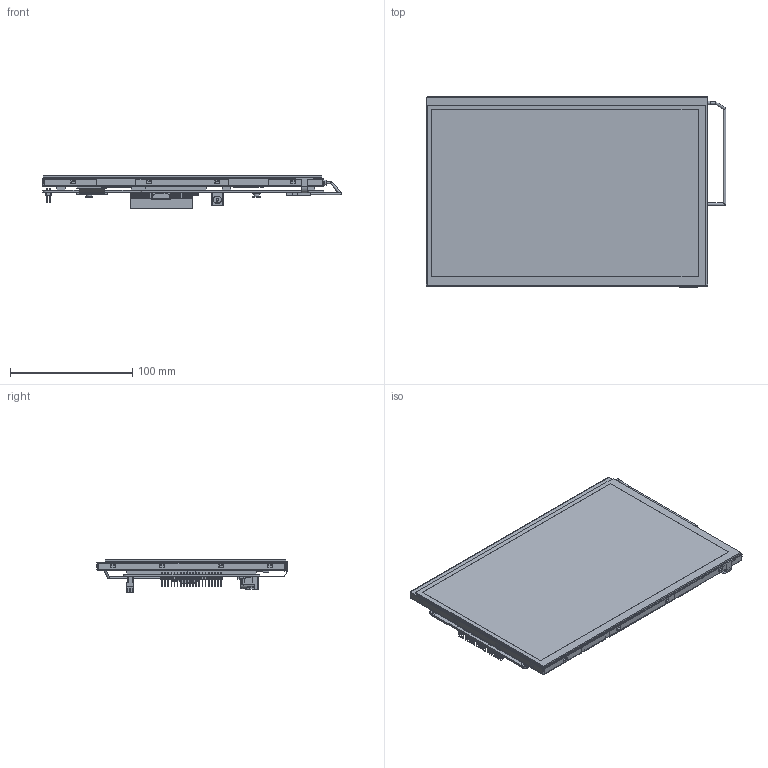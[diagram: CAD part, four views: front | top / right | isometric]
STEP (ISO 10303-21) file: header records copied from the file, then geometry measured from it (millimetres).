
FILE_DESCRIPTION(/* description */ ('Unknown'),/* implementation_level */ '2;1');
FILE_NAME(/* name */ 'WF101FSYFPLHTX#',/* time_stamp */ '2019-05-08T10:22:53+08:00',/* author */ ('Unknown'),/* organization */ ('Unknown'),/* preprocessor_version */ 'ST-DEVELOPER v16.7',/* originating_system */ 'DEX',/* authorisation */ $);
FILE_SCHEMA (('AUTOMOTIVE_DESIGN {1 0 10303 214 3 1 1}'));
Products named in the file (1): WF101FSYFPLHTX#2
Bounding box: 245.05 x 155.72 x 27.18 mm (x, y, z)
Volume: 322268.3 mm3; surface area: 320493.8 mm2
Topology: 246 solids, 246 shells, 4466 faces, 10997 edges, 7333 vertices
Faces by surface type: plane 3968, cylinder 485, torus 8, cone 3, bspline 2
Full cylindrical faces by diameter (mm): 0.55 x2, 1 x80, 1.8 x156, 2 x5, 2.75 x8, 4.374 x2, 6.2 x16, 6.4 x1
Entity records: 142907 total; most frequent: CARTESIAN_POINT 22563, ORIENTED_EDGE 21350, DIRECTION 20581, EDGE_CURVE 10675, LINE 9679, VECTOR 9679, VERTEX_POINT 7286, EDGE_LOOP 5503
